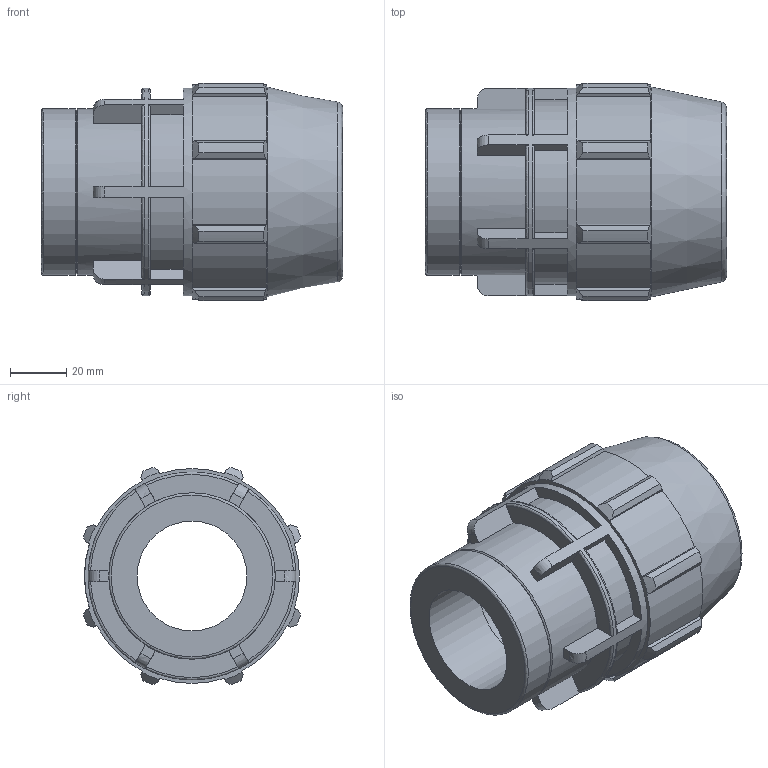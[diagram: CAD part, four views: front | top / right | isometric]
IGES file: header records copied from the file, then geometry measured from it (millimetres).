
Global section: file name: 0703M0T13013.ipt; native system: Autodesk Inventor 2019; preprocessor: unknown; author: KIM; date: 20210826.124519; units: inch
Bounding box: 106.93 x 77.2 x 77.2 mm (x, y, z)
Volume: 246073.5 mm3; surface area: 47081.8 mm2
Topology: 1 solids, 1 shells, 148 faces, 413 edges, 277 vertices
Faces by surface type: plane 86, revolution 25, cylinder 25, cone 12
Full cylindrical faces by diameter (mm): 59.07 x2, 73.838 x1
